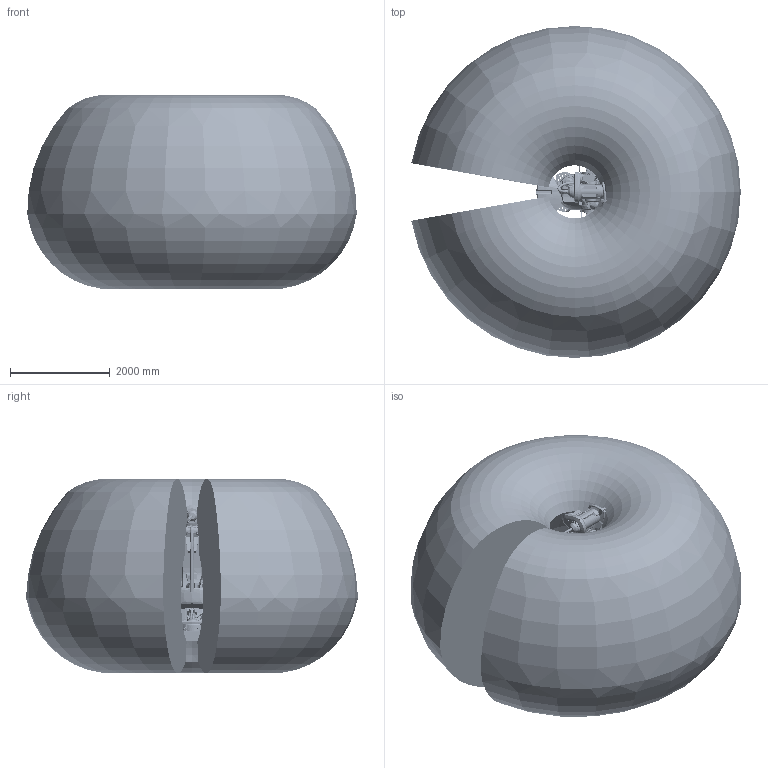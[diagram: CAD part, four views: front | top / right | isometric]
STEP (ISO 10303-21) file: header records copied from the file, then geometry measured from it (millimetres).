
FILE_DESCRIPTION (( 'STEP AP214' ), '1' );
FILE_NAME ('IRB7720-LID-MH_400kg-330_OC_01_ASM_CAD.step', '2026-01-28T10:34:44', ( '' ), ( '' ), 'SwSTEP 2.0', 'SolidWorks 2024', '' );
FILE_SCHEMA (( 'AUTOMOTIVE_DESIGN' ));
Length unit declared in the file: millimetre
Products named in the file (22): IRB7720_All-330_OC_00_LINK03_CAD; IRB77X0_All_OC_00_CYL_CAD; IRB77X0_All_OC_00_LINK02m_CABLE; IRB77X0_All-330_OC_00_LINK06_CABLE; IRB7720_All_OC_00_BASE_CAD; IRB77X0_All_OC_00_LINK01_CABLE; IRB77X0_All-330_OC_00_LINK05_CAD; IRB77X0_All-330_OC_00_LINK05_CABLE; IRB77X0_All_OC_00_LINK02_CAD; IRB77X0_All-330_OC_00_Working-space; IRB77X0-LID-MH_All_OC_01_LINK03a_CABLE; IRB7720_All-330_OC_00_LINK03m_CABLE; IRB77X0_All_OC_00_LINK01m_CABLE; IRB77X0_All_OC_00_ROD_CAD; IRB7720_All_OC_00_LINKARM_CAD; IRB77X0_All_OC_00_LINK03b_CABLE; IRB77X0_All_OC_00_LINK02_CABLE; IRB77X0-LID_All-330_OC_01_LINK04_CABLE; IRB77X0_All-330_OC_00_LINK04_CAD; IRB77X0_All_OC_00_LINK01_CAD; IRB77X0_All_OC_00_LINKBAR_CAD; IRB7720-LID-MH_400kg-330_OC_01_ASM_CAD
Assembly tree (21 placements, depth 2):
  IRB7720-LID-MH_400kg-330_OC_01_ASM_CAD
    IRB7720_All_OC_00_BASE_CAD
    IRB77X0_All_OC_00_LINK01_CAD
    IRB77X0_All_OC_00_LINK02_CAD
    IRB7720_All_OC_00_LINKARM_CAD
    IRB77X0_All_OC_00_LINKBAR_CAD
    IRB77X0_All_OC_00_CYL_CAD
    IRB77X0_All_OC_00_ROD_CAD
    IRB7720_All-330_OC_00_LINK03_CAD
    IRB77X0_All-330_OC_00_LINK04_CAD
    IRB77X0_All-330_OC_00_LINK05_CAD
    IRB77X0_All_OC_00_LINK01m_CABLE
    IRB77X0_All_OC_00_LINK02m_CABLE
    IRB7720_All-330_OC_00_LINK03m_CABLE
    IRB77X0_All_OC_00_LINK01_CABLE
    IRB77X0_All_OC_00_LINK02_CABLE
    IRB77X0-LID-MH_All_OC_01_LINK03a_CABLE
    IRB77X0_All_OC_00_LINK03b_CABLE
    IRB77X0_All-330_OC_00_LINK05_CABLE
    IRB77X0_All-330_OC_00_LINK06_CABLE
    IRB77X0-LID_All-330_OC_01_LINK04_CABLE
    IRB77X0_All-330_OC_00_Working-space
Bounding box: 6596.2 x 6646.69 x 3895.16 mm (x, y, z)
Volume: 92084121143.2 mm3; surface area: 164872881.6 mm2
Topology: 23 solids, 27 shells, 8748 faces, 22177 edges, 14364 vertices
Faces by surface type: plane 4438, cylinder 1831, cone 1151, bspline 989, torus 264, sphere 75
Full cylindrical faces by diameter (mm): 4.8 x8, 5 x15, 5.2 x4, 5.45 x1, 5.5 x4, 6 x16, 6.6 x4, 6.8 x32, 7 x4, 7.5 x8, 8 x8, 8.3 x2, 8.5 x15, 9.5 x4, 10 x14, 10.2 x24, 10.22 x2, 10.5 x3, 11 x6, 11.05 x2, 11.8 x2, 12 x30, 13 x4, 13.27 x48, 14 x28, 15 x2, 16 x5, 16.27 x18, 17 x8, 17.5 x10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
Entity records: 582126 total; most frequent: CARTESIAN_POINT 295160, ORIENTED_EDGE 40268, DIRECTION 36019, EDGE_CURVE 20134, VERTEX_POINT 13673, AXIS2_PLACEMENT_3D 13542, EDGE_LOOP 11173, FACE_OUTER_BOUND 9646
